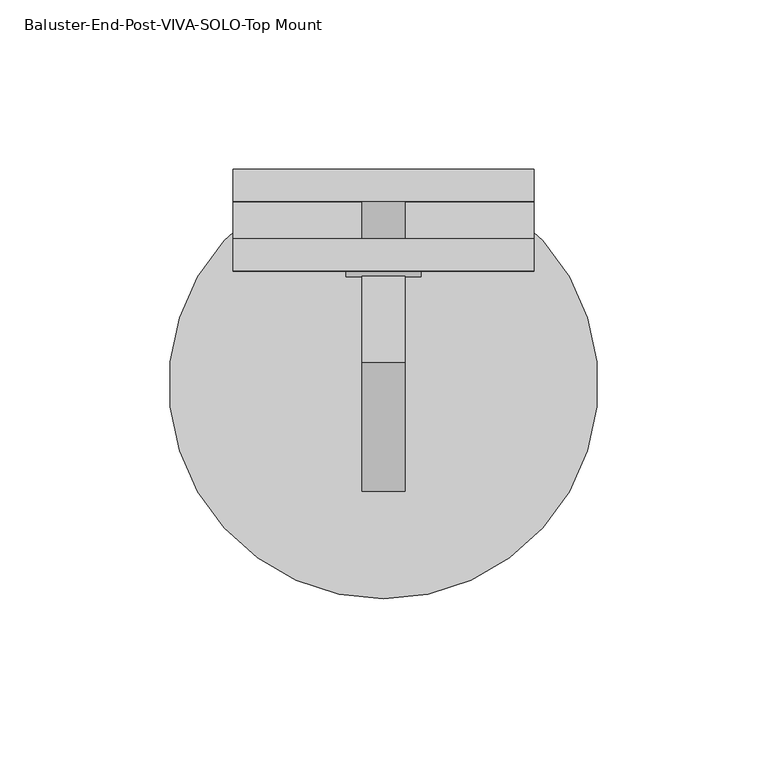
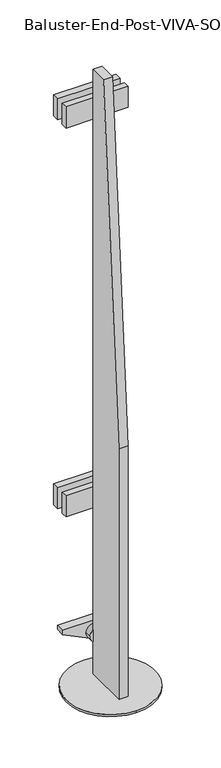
"""IFC4 building model written with IfcOpenShell, lengths in millimetres: proxy geometry, Baluster-End-Post-VIVA-SOLO-Top Mount : CORED INTO CONCRETE_TOP MOUNT FOLD_STRAIGHT."""

from ifc_helpers import new_model, si_unit, point, frame, frame_2d, origin, place, context, project, spatial, polyline, circle_curve, trimmed, segment, composite_curve, outline, extrude, source, transform, mapped, element, save


def baluster_end_post_viva_solo_top_mount_156321c6(model_context):
    return source(origin(), model_context, "Body", "SweptSolid", [
        extrude(outline(composite_curve([segment(trimmed(circle_curve(frame_2d((268.5208758, 0.0)), 6.35), [point((268.5208758, -6.35))], [point((268.5208758, 6.35))], False, "CARTESIAN"), True, "CONTINUOUS"), segment(trimmed(circle_curve(frame_2d((268.5208758, 0.0)), 6.35), [point((268.5208758, 6.35))], [point((268.5208758, -6.35))], False, "CARTESIAN"), True, "CONTINUOUS")], self_intersect=False)), frame((0.0, -42.5925389, 0.0), z_axis=(0.0, 1.0, 0.0), x_axis=(0.0, 0.0, 1.0)), (0.0, 0.0, 1.0), 12.7),
        extrude(outline(composite_curve([segment(trimmed(circle_curve(frame_2d((854.776764, 0.0)), 6.35), [point((854.776764, -6.35))], [point((854.776764, 6.35))], False, "CARTESIAN"), True, "CONTINUOUS"), segment(trimmed(circle_curve(frame_2d((854.776764, 0.0)), 6.35), [point((854.776764, 6.35))], [point((854.776764, -6.35))], False, "CARTESIAN"), True, "CONTINUOUS")], self_intersect=False)), frame((0.0, -42.5925389, 0.0), z_axis=(0.0, 1.0, 0.0), x_axis=(0.0, 0.0, 1.0)), (0.0, 0.0, 1.0), 12.7),
        extrude(outline(composite_curve([segment(trimmed(circle_curve(frame_2d((60.8777263, 0.0)), 11.1125), [point((60.8777263, -11.1125))], [point((60.8777263, 11.1125))], False, "CARTESIAN"), True, "CONTINUOUS"), segment(trimmed(circle_curve(frame_2d((60.8777263, 0.0)), 11.1125), [point((60.8777263, 11.1125))], [point((60.8777263, -11.1125))], False, "CARTESIAN"), True, "CONTINUOUS")], self_intersect=False)), frame((0.0, -52.1175389, 0.0), z_axis=(0.0, 1.0, 0.0), x_axis=(0.0, 0.0, 1.0)), (0.0, 0.0, 1.0), 25.4),
        extrude(outline(polyline([(-52.1175389, 914.8205071), (-52.1175389, 0.4205071), (-115.6175389, 0.4205071), (-115.6175389, 381.4205071), (-77.5175389, 914.8205071), (-52.1175389, 914.8205071)])), frame((-6.35, 0.0, 0.0), z_axis=(1.0, 0.0, 0.0), x_axis=(0.0, 1.0, 0.0)), (0.0, 0.0, 1.0), 12.7),
        extrude(outline(polyline([(44.45, -20.3675389), (44.45, -29.8925389), (-44.45, -29.8925389), (-44.45, -20.3675389), (44.45, -20.3675389)])), frame((0.0, 0.0, 838.7824344), z_axis=(0.0, 0.0, 1.0), x_axis=(1.0, 0.0, 0.0)), (0.0, 0.0, 1.0), 31.75),
        extrude(outline(polyline([(44.45, -20.3675389), (44.45, -29.8925389), (-44.45, -29.8925389), (-44.45, -20.3675389), (44.45, -20.3675389)])), frame((0.0, 0.0, 252.4484609), z_axis=(0.0, 0.0, 1.0), x_axis=(1.0, 0.0, 0.0)), (0.0, 0.0, 1.0), 31.75),
        extrude(outline(polyline([(70.3302675, -44.45), (48.4156188, 0.0), (70.3302675, 44.45), (76.6802675, 44.45), (76.6802675, -44.45), (70.3302675, -44.45)])), frame((0.0, -42.5925389, 0.0), z_axis=(0.0, 1.0, 0.0), x_axis=(0.0, 0.0, 1.0)), (0.0, 0.0, 1.0), 12.7),
        extrude(outline(polyline([(44.45, -40.984781), (44.45, -50.509781), (-44.45, -50.509781), (-44.45, -40.984781), (44.45, -40.984781)])), frame((0.0, 0.0, 838.7824344), z_axis=(0.0, 0.0, 1.0), x_axis=(1.0, 0.0, 0.0)), (0.0, 0.0, 1.0), 31.75),
        extrude(outline(polyline([(44.45, -40.984781), (44.45, -50.509781), (-44.45, -50.509781), (-44.45, -40.984781), (44.45, -40.984781)])), frame((0.0, 0.0, 252.4484609), z_axis=(0.0, 0.0, 1.0), x_axis=(1.0, 0.0, 0.0)), (0.0, 0.0, 1.0), 31.75),
        extrude(outline(composite_curve([segment(trimmed(circle_curve(frame_2d((0.0, -83.8675389)), 63.5), [point((0.0, -147.3675389))], [point((0.0, -20.3675389))], False, "CARTESIAN"), True, "CONTINUOUS"), segment(trimmed(circle_curve(frame_2d((0.0, -83.8675389)), 63.5), [point((0.0, -20.3675389))], [point((0.0, -147.3675389))], False, "CARTESIAN"), True, "CONTINUOUS")], self_intersect=False)), frame((0.0, 0.0, 0.4205071), z_axis=(0.0, 0.0, 1.0), x_axis=(1.0, 0.0, 0.0)), (0.0, 0.0, 1.0), 3.175),
    ])


if __name__ == "__main__":
    model = new_model("IFC4")
    model_context = context("Model", 3, world=origin())
    ifc_project = project(units=[si_unit("LENGTHUNIT", "METRE", prefix="MILLI")], contexts=[model_context])
    site = spatial("IfcSite", under=ifc_project)
    building = spatial("IfcBuilding", under=site)
    placement = place(None, origin())
    baluster_end_post_viva_solo_top_mount_shape = baluster_end_post_viva_solo_top_mount_156321c6(model_context)
    element("IfcBuildingElementProxy", 1, Name="Baluster-End-Post-VIVA-SOLO-Top Mount : CORED INTO CONCRETE_TOP MOUNT FOLD_STRAIGHT", ObjectType="Baluster-End-Post-VIVA-SOLO-Top Mount : CORED INTO CONCRETE_TOP MOUNT FOLD_STRAIGHT", at=placement, inside=building, context=model_context, shape_type="MappedRepresentation", body=[
        mapped(baluster_end_post_viva_solo_top_mount_shape, transform((0.0, 0.0, 0.0), x_axis=(1.0, 0.0, 0.0), y_axis=(0.0, 1.0, 0.0), z_axis=(0.0, 0.0, 1.0))),
    ])
    save(model, "model.ifc")
